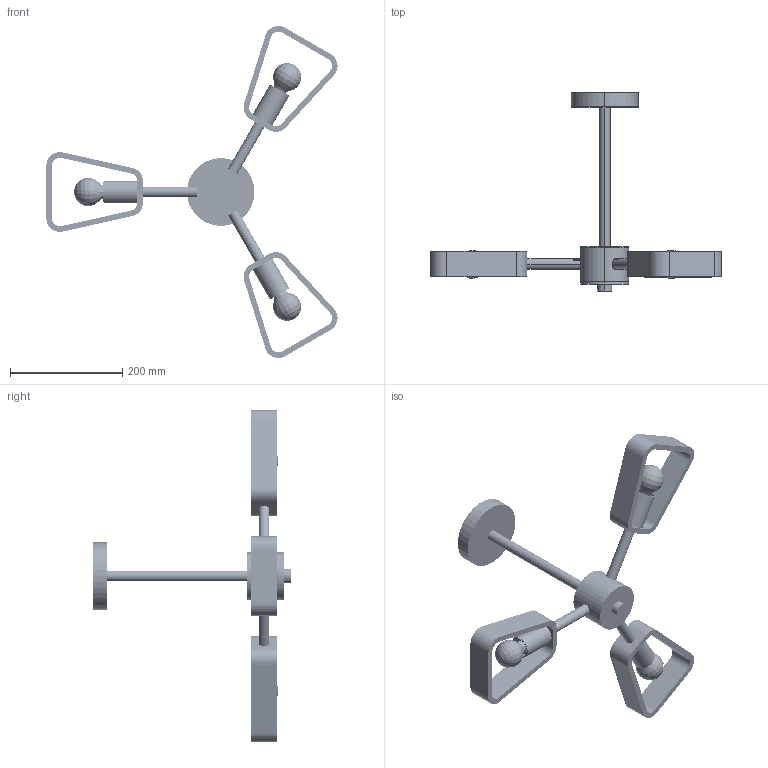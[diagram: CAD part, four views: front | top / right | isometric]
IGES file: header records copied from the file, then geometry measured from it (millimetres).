
Start section: SolidWorks IGES file using analytic representation for surfaces
Global section: file name: F:\燠隴矨\3D\2025-8\Quadra Chandelier-3heads.IGS,15; native system: HSolidWorks 2022; preprocessor: SolidWorks 2022; author: MyPC; date: 250831.091317; units: millimetre
Bounding box: 517.97 x 352.5 x 590.66 mm (x, y, z)
Surface area: 422742.7 mm2 (no closed solid volume)
Topology: 0 solids, 0 shells, 692 faces, 9994 edges, 9985 vertices
Faces by surface type: revolution 476, bspline 216
